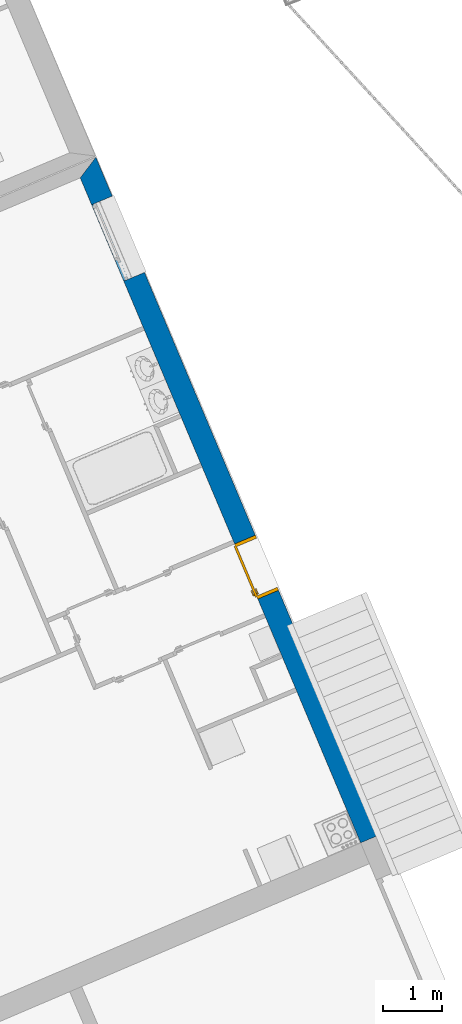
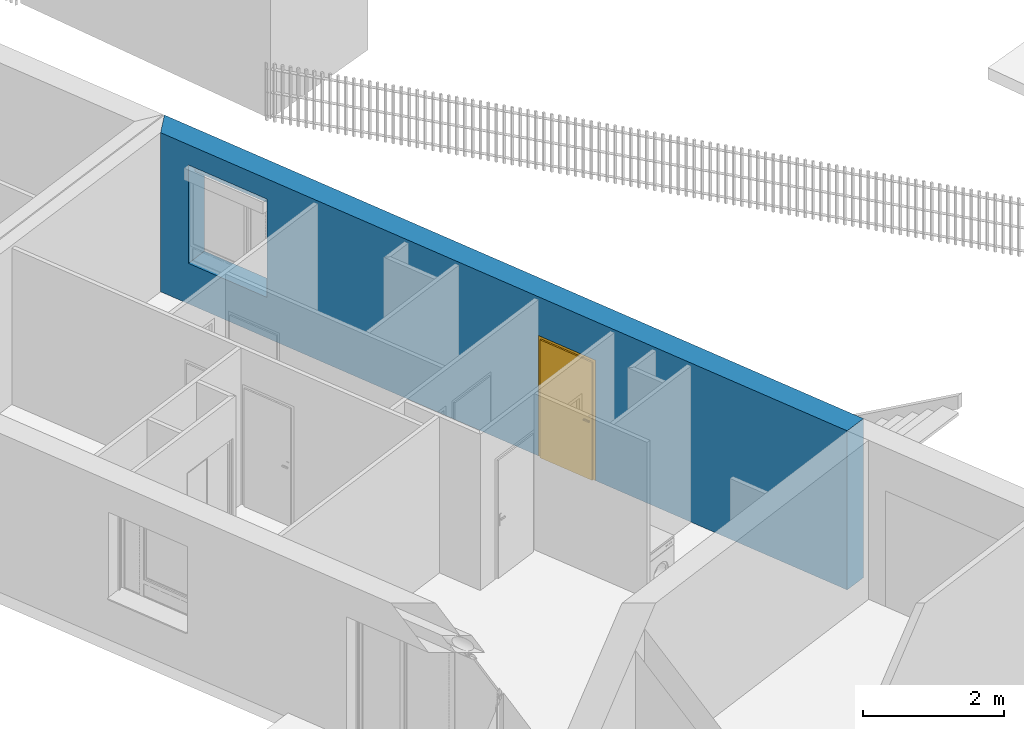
# One storey, part 54 of 195: 1 door, 1 wall, 2 openings.
"""IFC2X3 building model written with IfcOpenShell, lengths in metres."""

from ifc_helpers import new_model, entity, si_unit, converted_unit, derived_unit, money_unit, direction, frame, origin_with_axes, origin_2d_with_axis, place, context, subcontext, project, spatial, polyline, rectangle, outline, extrude, faceted_brep, source, transform, mapped, material, layer, layer_set, layer_usage, type_object, element, fill, save


model = new_model("IFC2X3")

# Units and contexts
model_context = context("Model", 3, precision=1e-05, world=origin_with_axes(), true_north=direction((0.0, 1.0)))
body_context = subcontext(model_context, "Body", "Model", "MODEL_VIEW")
ifc_project = project(units=[si_unit("LENGTHUNIT", "METRE"), si_unit("AREAUNIT", "SQUARE_METRE"), si_unit("VOLUMEUNIT", "CUBIC_METRE"), converted_unit("PLANEANGLEUNIT", "DEGREE", entity("IfcPlaneAngleMeasure", 0.0174532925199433), si_unit("PLANEANGLEUNIT", "RADIAN"), dimensions=[0, 0, 0, 0, 0, 0, 0]), money_unit("CHF"), converted_unit("TIMEUNIT", "Year", entity("IfcTimeMeasure", 31557600.0), si_unit("TIMEUNIT", "SECOND"), dimensions=[0, 0, 1, 0, 0, 0, 0]), si_unit("MASSUNIT", "GRAM", prefix="KILO"), si_unit("THERMODYNAMICTEMPERATUREUNIT", "DEGREE_CELSIUS"), si_unit("LUMINOUSINTENSITYUNIT", "LUMEN"), si_unit("ENERGYUNIT", "JOULE", prefix="MEGA"), derived_unit("THERMALCONDUCTANCEUNIT", [(si_unit("POWERUNIT", "WATT"), 1), (si_unit("LENGTHUNIT", "METRE"), -1), (si_unit("THERMODYNAMICTEMPERATUREUNIT", "KELVIN"), -1)]), derived_unit("SPECIFICHEATCAPACITYUNIT", [(si_unit("ENERGYUNIT", "JOULE"), 1), (si_unit("MASSUNIT", "GRAM", prefix="KILO"), -1), (si_unit("THERMODYNAMICTEMPERATUREUNIT", "KELVIN"), -1)]), derived_unit("MASSDENSITYUNIT", [(si_unit("MASSUNIT", "GRAM", prefix="KILO"), 1), (si_unit("VOLUMEUNIT", "CUBIC_METRE"), -1)])], contexts=[model_context])

# Site, building, storey
site_placement = place(None, origin_with_axes())
site = spatial("IfcSite", under=ifc_project, at=site_placement, Name="Site", CompositionType="ELEMENT")
building_placement = place(site_placement, origin_with_axes())
building = spatial("IfcBuilding", under=site, at=building_placement, Name="Bâtiment", CompositionType="ELEMENT")
storey_placement = place(building_placement, origin_with_axes())
storey = spatial("IfcBuildingStorey", under=building, at=storey_placement, Name="rdc", CompositionType="ELEMENT", Elevation=0.0)

# Wall, openings, door
ifc_material_1 = material(Name="Parpaing 312445824")
ifc_layer_1 = layer(ifc_material_1, 0.22, ventilated="UNKNOWN")
ifc_material_2 = material(Name="Isolant styromousse 301821074")
ifc_layer_2 = layer(ifc_material_2, 0.16, ventilated="UNKNOWN")
ifc_layer_set = layer_set([ifc_layer_1, ifc_layer_2], Name="isol int 22+16 0836643197")
ifc_layer_usage = layer_usage(ifc_layer_set, "AXIS2", "NEGATIVE", 0.0)
wall_type = type_object("IfcWallType", Name="isol int 22+16 0836643197 380", PredefinedType="NOTDEFINED")
wall_placement = place(storey_placement, frame((9570.4407028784, -1042.559971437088, 57.7), z_axis=(0.0, 0.0, 1.0), x_axis=(0.3885669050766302, -0.9214205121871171, 0.0)))
wall = element("IfcWallStandardCase", 1, at=wall_placement, inside=storey, type_object=wall_type, material=ifc_layer_usage, Name="Mur-113", context=body_context, shape_type="SweptSolid", body=[
    extrude(outline(polyline([(0.0, -0.3799999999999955), (12.19520226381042, -0.3800000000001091), (12.19520226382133, 0.0), (-0.2199999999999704, 0.0), (0.0, -0.3799999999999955)])), origin_with_axes(), (0.0, 0.0, 1.0), 2.75),
])
opening_1_placement = place(wall_placement, frame((1.194048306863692, 0.0, 0.7000000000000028), z_axis=(0.0, 0.0, 1.0), x_axis=(1.0, 0.0, 0.0)))
element("IfcOpeningElement", 2, at=opening_1_placement, cuts=wall, Name="Fen-045", context=body_context, shape_type="Brep", body=[
    faceted_brep([(-0.6999999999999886, -0.2200000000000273, 1.5), (0.6999999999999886, -0.2200000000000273, 1.5), (0.7000000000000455, 4.367291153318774, 1.5), (-0.6999999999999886, 4.367291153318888, 1.5), (-0.6999999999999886, -0.2200000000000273, 1.700000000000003), (0.6999999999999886, -0.2200000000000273, 1.700000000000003), (0.7000000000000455, -0.2999999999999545, 1.5), (0.7000000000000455, -0.2999999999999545, 0.0), (0.7000000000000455, 4.367291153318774, 0.0), (-0.6999999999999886, 4.367291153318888, 0.0), (-0.7000000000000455, -0.3000000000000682, 1.5), (-0.7000000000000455, -0.3000000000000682, 0.0), (-0.7000000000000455, -0.4800000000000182, 1.5), (-0.7000000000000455, -0.4800000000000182, 1.700000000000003), (0.7000000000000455, -0.4800000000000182, 1.700000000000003), (0.7000000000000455, -0.4800000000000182, 1.5), (0.7000000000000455, -4.747291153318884, 1.5), (0.7000000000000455, -4.747291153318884, 0.0), (-0.7000000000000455, -4.747291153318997, 0.0), (-0.7000000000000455, -4.747291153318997, 1.5)], [[[0, 1, 2, 3]], [[1, 0, 4, 5]], [[1, 6, 7, 8, 2]], [[2, 8, 9, 3]], [[10, 0, 3, 9, 11]], [[0, 10, 12, 13, 4]], [[14, 5, 4, 13]], [[6, 1, 5, 14, 15]], [[6, 15, 16, 17, 7]], [[7, 11, 9, 8]], [[12, 10, 11, 18, 19]], [[12, 15, 14, 13]], [[15, 12, 19, 16]], [[19, 18, 17, 16]], [[11, 7, 17, 18]]]),
])
opening_2_placement = place(wall_placement, frame((7.218539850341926, 0.0, 0.0), z_axis=(0.0, 0.0, 1.0), x_axis=(1.0, 0.0, 0.0)))
opening_2 = element("IfcOpeningElement", 3, at=opening_2_placement, cuts=wall, Name="Por-290", context=body_context, shape_type="SweptSolid", body=[
    extrude(rectangle(XDim=1.01000001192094, YDim=2.079999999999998, at=origin_2d_with_axis()), frame((-5.960373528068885e-09, 0.3800000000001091, 1.039999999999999), z_axis=(0.0, -1.0, 0.0), x_axis=(-1.0, 0.0, 0.0)), (0.0, 0.0, 1.0), 0.76),
])
door_style = type_object("IfcDoorStyle", Name="Porte_1v", ConstructionType="NOTDEFINED", OperationType="NOTDEFINED", ParameterTakesPrecedence=False, Sizeable=False)
shared_shape = source(origin_with_axes(), body_context, "Body", "Brep", [
    faceted_brep([(0.5049999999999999, 0.0, 0.0), (0.465, 0.0, 0.0), (0.4649999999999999, 0.0, 2.04), (-0.4649999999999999, 0.0, 2.04), (-0.465, 0.0, 0.0), (-0.5049999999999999, 0.0, 0.0), (-0.5049999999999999, 0.0, 2.08), (0.5049999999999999, 0.0, 2.08), (0.5049999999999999, -0.38, 0.0), (0.45, -0.3799999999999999, 0.0), (0.45, -0.01500000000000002, 0.0), (0.465, -0.01500000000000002, 0.0), (0.4649999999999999, -0.01500000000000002, 2.04), (-0.4649999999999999, -0.01499999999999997, 2.04), (-0.465, -0.01499999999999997, 0.0), (-0.45, -0.01499999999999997, 0.0), (-0.45, -0.3799999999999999, 0.0), (-0.5049999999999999, -0.3799999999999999, 0.0), (-0.5049999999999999, -0.3799999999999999, 2.08), (0.5049999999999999, -0.38, 2.08), (-0.45, -0.3799999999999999, 2.025), (0.45, -0.3799999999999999, 2.025), (0.45, -0.01500000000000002, 2.025), (-0.45, -0.01499999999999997, 2.025)], [[[0, 1, 2, 3, 4, 5, 6, 7]], [[0, 8, 9, 10, 11, 1]], [[1, 11, 12, 2]], [[2, 12, 13, 3]], [[3, 13, 14, 4]], [[5, 4, 14, 15, 16, 17]], [[18, 6, 5, 17]], [[19, 7, 6, 18]], [[8, 0, 7, 19]], [[9, 8, 19, 18, 17, 16, 20, 21]], [[10, 9, 21, 22]], [[11, 10, 22, 23, 15, 14, 13, 12]], [[23, 20, 16, 15]], [[22, 21, 20, 23]]]),
    faceted_brep([(-0.4, -0.01499999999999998, 0.9), (-0.4399999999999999, -0.01499999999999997, 0.9), (-0.4399999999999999, -0.01499999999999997, 1.1), (-0.4, -0.01499999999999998, 1.1), (-0.4, -0.02499999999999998, 0.9), (-0.4399999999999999, -0.02499999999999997, 0.9), (-0.4399999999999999, -0.02499999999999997, 1.1), (-0.4, -0.02499999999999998, 1.1)], [[[0, 1, 2, 3]], [[1, 0, 4, 5]], [[2, 1, 5, 6]], [[3, 2, 6, 7]], [[0, 3, 7, 4]], [[5, 4, 7, 6]]]),
    faceted_brep([(-0.3299999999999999, -0.02499999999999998, 1.0), (-0.4299999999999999, -0.02499999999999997, 1.0), (-0.4299999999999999, -0.02499999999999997, 1.02), (-0.3299999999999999, -0.02499999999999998, 1.02), (-0.3299999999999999, -0.04499999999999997, 1.0), (-0.4299999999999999, -0.04499999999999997, 1.0), (-0.4299999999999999, -0.04499999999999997, 1.02), (-0.3299999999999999, -0.04499999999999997, 1.02)], [[[0, 1, 2, 3]], [[1, 0, 4, 5]], [[2, 1, 5, 6]], [[3, 2, 6, 7]], [[0, 3, 7, 4]], [[5, 4, 7, 6]]]),
    faceted_brep([(-0.4, 0.03500000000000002, 0.9), (-0.4399999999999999, 0.03500000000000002, 0.9), (-0.4399999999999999, 0.03500000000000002, 1.1), (-0.4, 0.03500000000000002, 1.1), (-0.4, 0.02500000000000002, 0.9), (-0.4399999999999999, 0.02500000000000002, 0.9), (-0.4399999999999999, 0.02500000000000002, 1.1), (-0.4, 0.02500000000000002, 1.1)], [[[0, 1, 2, 3]], [[1, 0, 4, 5]], [[2, 1, 5, 6]], [[3, 2, 6, 7]], [[0, 3, 7, 4]], [[5, 4, 7, 6]]]),
    faceted_brep([(-0.3299999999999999, 0.05500000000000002, 1.0), (-0.4299999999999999, 0.05500000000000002, 1.0), (-0.4299999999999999, 0.05500000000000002, 1.02), (-0.3299999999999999, 0.05500000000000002, 1.02), (-0.3299999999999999, 0.03500000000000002, 1.0), (-0.4299999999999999, 0.03500000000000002, 1.0), (-0.4299999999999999, 0.03500000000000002, 1.02), (-0.3299999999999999, 0.03500000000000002, 1.02)], [[[0, 1, 2, 3]], [[1, 0, 4, 5]], [[2, 1, 5, 6]], [[3, 2, 6, 7]], [[0, 3, 7, 4]], [[5, 4, 7, 6]]]),
    faceted_brep([(-0.465, 0.02500000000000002, 0.0), (0.465, 0.02499999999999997, 0.0), (0.465, -0.01500000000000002, 0.0), (-0.465, -0.01499999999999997, 0.0), (-0.465, 0.02500000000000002, 2.04), (0.465, 0.02499999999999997, 2.04), (0.465, -0.01500000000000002, 2.04), (-0.465, -0.01499999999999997, 2.04)], [[[0, 1, 2, 3]], [[0, 4, 5, 1]], [[1, 5, 6, 2]], [[3, 2, 6, 7]], [[4, 0, 3, 7]], [[5, 4, 7, 6]]]),
])
door_placement = place(opening_2_placement, frame((0.4649999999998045, 0.0, 0.0), z_axis=(0.0, 0.0, 1.0), x_axis=(-1.0, 0.0, 0.0)))
door = element("IfcDoor", 4, at=door_placement, inside=storey, type_object=door_style, Name="Por-290", OverallHeight=2.04, OverallWidth=0.93, context=body_context, shape_type="MappedRepresentation", body=[
    mapped(shared_shape, transform((0.4650000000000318, 0.3799999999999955, 0.0))),
])
fill(opening_2, door)

save(model, "model.ifc")
